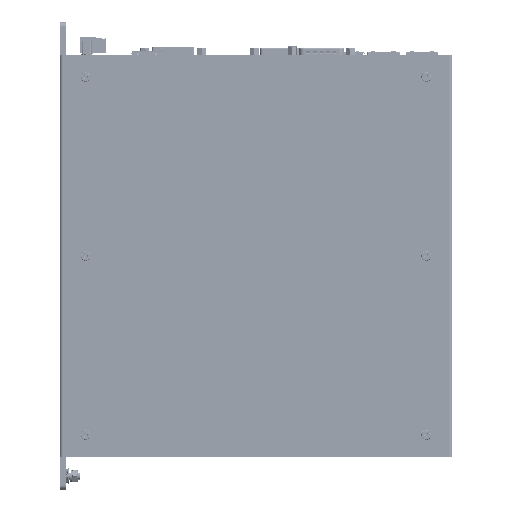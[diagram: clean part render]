
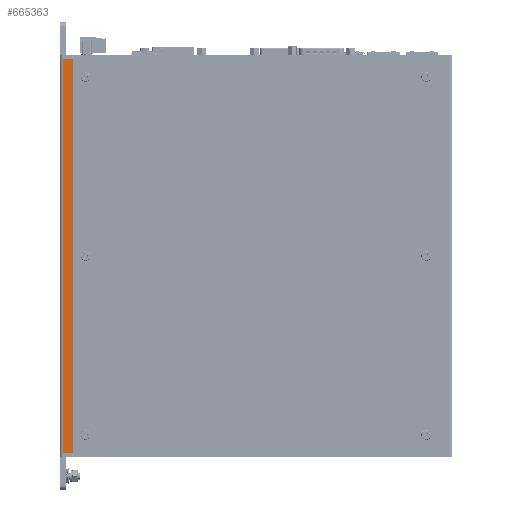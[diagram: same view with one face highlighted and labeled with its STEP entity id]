
A CAD part, front view. The second image highlights one B-rep face of the part: STEP entity #665363.
In plain terms, the highlighted planar face has unit normal (0, -1, 0) as drawn and (-1, 0, 0) by its records, which use the part's own axes.
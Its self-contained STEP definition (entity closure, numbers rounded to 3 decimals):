
#1499 = VERTEX_POINT ( 'NONE', #768062 ) ;
#54601 = VECTOR ( 'NONE', #509811, 1000. ) ;
#68692 = FACE_OUTER_BOUND ( 'NONE', #207970, .T. ) ;
#122139 = CARTESIAN_POINT ( 'NONE',  ( -45., -113., -7.5 ) ) ;
#141614 = ORIENTED_EDGE ( 'NONE', *, *, #648255, .T. ) ;
#145405 = CARTESIAN_POINT ( 'NONE',  ( -45., 113., -7.5 ) ) ;
#184225 = DIRECTION ( 'NONE',  ( 0., 1., 0. ) ) ;
#207970 = EDGE_LOOP ( 'NONE', ( #757341, #555671, #141614, #433214 ) ) ;
#225997 = CARTESIAN_POINT ( 'NONE',  ( -45., 113., -7.5 ) ) ;
#258060 = CARTESIAN_POINT ( 'NONE',  ( -45., -113., -7.5 ) ) ;
#260121 = LINE ( 'NONE', #453403, #415341 ) ;
#263477 = CARTESIAN_POINT ( 'NONE',  ( -45., -113., -2. ) ) ;
#324665 = LINE ( 'NONE', #710433, #831293 ) ;
#356689 = CARTESIAN_POINT ( 'NONE',  ( -45., -113., -19. ) ) ;
#367898 = VECTOR ( 'NONE', #428283, 1000. ) ;
#415341 = VECTOR ( 'NONE', #647194, 1000. ) ;
#428283 = DIRECTION ( 'NONE',  ( 0., 0., 1. ) ) ;
#433214 = ORIENTED_EDGE ( 'NONE', *, *, #712546, .F. ) ;
#453403 = CARTESIAN_POINT ( 'NONE',  ( -45., 113., -2. ) ) ;
#493229 = AXIS2_PLACEMENT_3D ( 'NONE', #356689, #833141, #503765 ) ;
#503765 = DIRECTION ( 'NONE',  ( 0., 0., 1. ) ) ;
#509811 = DIRECTION ( 'NONE',  ( 0., 0., 1. ) ) ;
#553210 = PLANE ( 'NONE',  #493229 ) ;
#555671 = ORIENTED_EDGE ( 'NONE', *, *, #635237, .F. ) ;
#572682 = VERTEX_POINT ( 'NONE', #263477 ) ;
#613357 = LINE ( 'NONE', #122139, #54601 ) ;
#622614 = VERTEX_POINT ( 'NONE', #145405 ) ;
#635237 = EDGE_CURVE ( 'NONE', #827182, #622614, #324665, .T. ) ;
#646167 = EDGE_CURVE ( 'NONE', #622614, #1499, #730127, .T. ) ;
#647194 = DIRECTION ( 'NONE',  ( 0., -1., 0. ) ) ;
#648255 = EDGE_CURVE ( 'NONE', #827182, #572682, #613357, .T. ) ;
#665363 = ADVANCED_FACE ( 'NONE', ( #68692 ), #553210, .T. ) ;
#710433 = CARTESIAN_POINT ( 'NONE',  ( -45., -113., -7.5 ) ) ;
#712546 = EDGE_CURVE ( 'NONE', #1499, #572682, #260121, .T. ) ;
#730127 = LINE ( 'NONE', #225997, #367898 ) ;
#757341 = ORIENTED_EDGE ( 'NONE', *, *, #646167, .F. ) ;
#768062 = CARTESIAN_POINT ( 'NONE',  ( -45., 113., -2. ) ) ;
#827182 = VERTEX_POINT ( 'NONE', #258060 ) ;
#831293 = VECTOR ( 'NONE', #184225, 1000. ) ;
#833141 = DIRECTION ( 'NONE',  ( -1., 0., 0. ) ) ;
